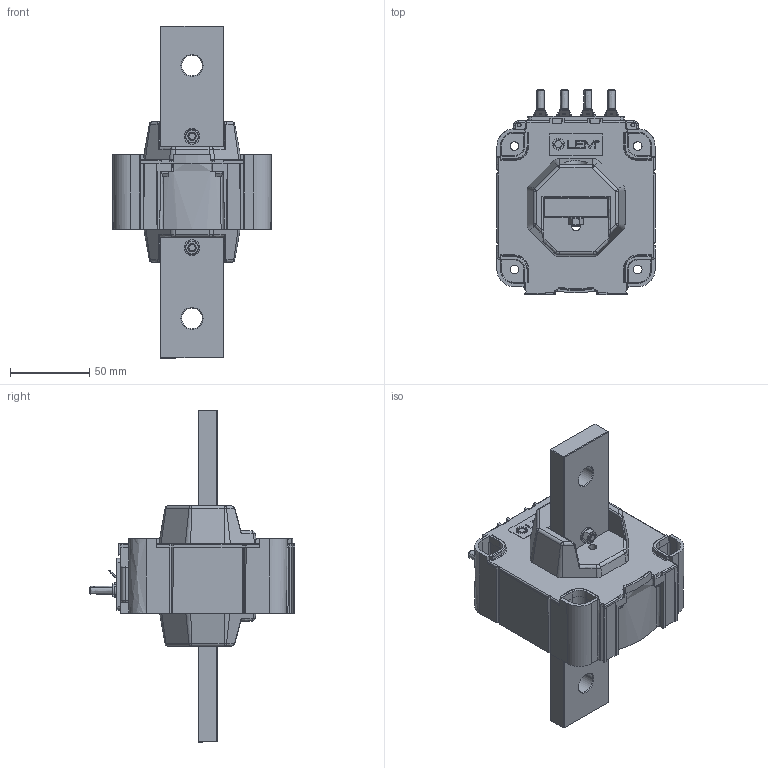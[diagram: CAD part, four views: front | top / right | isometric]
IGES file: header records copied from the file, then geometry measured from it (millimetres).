
Start section: Elysium IGES Interface
Global section: file name: E:\CFU\LTC 600-T-SP16\BLACK BOX\LTC_600-T_SP16.igs; native system: Creo Elements/Direct Modeling 20.1  10-Mar-2018; preprocessor: Creo Element/Direct IGES_3D V2.2; author: Unknown; organization: Unknown; date: 20200619.093927; units: millimetre
Bounding box: 100.14 x 130 x 210 mm (x, y, z)
Volume: 521896.2 mm3; surface area: 115253.8 mm2
Topology: 1 solids, 2 shells, 1990 faces, 5400 edges, 3465 vertices
Faces by surface type: bspline 1990
